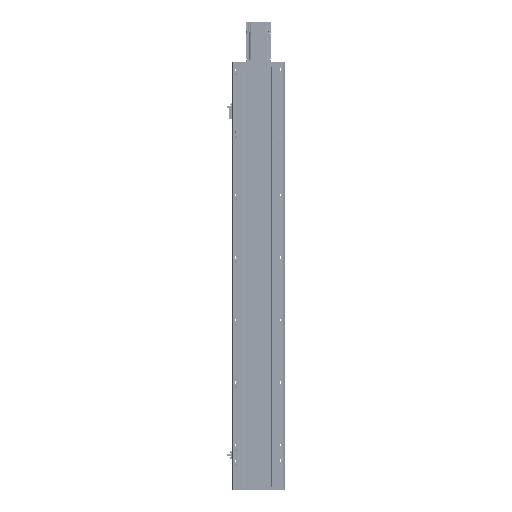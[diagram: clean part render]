
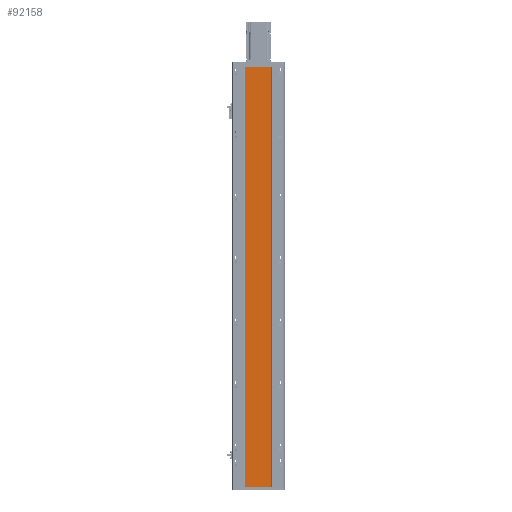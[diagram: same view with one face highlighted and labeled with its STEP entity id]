
A CAD part, front view. The second image highlights one B-rep face of the part: STEP entity #92158.
In plain terms, the highlighted planar face has unit normal (0, -1, 0).
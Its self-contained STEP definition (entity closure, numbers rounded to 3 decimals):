
#5801 = PLANE ( 'NONE',  #44922 ) ;
#7487 = DIRECTION ( 'NONE',  ( 1., 0., 0. ) ) ;
#9709 = CARTESIAN_POINT ( 'NONE',  ( -42., 0., -1345. ) ) ;
#10309 = LINE ( 'NONE', #24546, #95570 ) ;
#10428 = EDGE_CURVE ( 'NONE', #98197, #29475, #28049, .T. ) ;
#12548 = CARTESIAN_POINT ( 'NONE',  ( -42., 0., -1345. ) ) ;
#13523 = DIRECTION ( 'NONE',  ( 1., 0., 0. ) ) ;
#14028 = CARTESIAN_POINT ( 'NONE',  ( -42., 0., -1345. ) ) ;
#15722 = EDGE_LOOP ( 'NONE', ( #42338, #88941, #25563, #56900 ) ) ;
#19347 = FACE_OUTER_BOUND ( 'NONE', #15722, .T. ) ;
#19701 = VECTOR ( 'NONE', #13523, 1000. ) ;
#24546 = CARTESIAN_POINT ( 'NONE',  ( -42., 0., -1345. ) ) ;
#25563 = ORIENTED_EDGE ( 'NONE', *, *, #53585, .T. ) ;
#28049 = LINE ( 'NONE', #9709, #70654 ) ;
#29475 = VERTEX_POINT ( 'NONE', #106026 ) ;
#31503 = DIRECTION ( 'NONE',  ( 0., 0., -1. ) ) ;
#34792 = VECTOR ( 'NONE', #71512, 1000. ) ;
#42338 = ORIENTED_EDGE ( 'NONE', *, *, #53420, .F. ) ;
#42357 = LINE ( 'NONE', #73042, #19701 ) ;
#43954 = EDGE_CURVE ( 'NONE', #44988, #95842, #102778, .T. ) ;
#44922 = AXIS2_PLACEMENT_3D ( 'NONE', #14028, #82474, #31503 ) ;
#44988 = VERTEX_POINT ( 'NONE', #63469 ) ;
#53420 = EDGE_CURVE ( 'NONE', #29475, #95842, #42357, .T. ) ;
#53585 = EDGE_CURVE ( 'NONE', #98197, #44988, #10309, .T. ) ;
#54396 = CARTESIAN_POINT ( 'NONE',  ( 42., 0., -1345. ) ) ;
#56900 = ORIENTED_EDGE ( 'NONE', *, *, #43954, .T. ) ;
#63469 = CARTESIAN_POINT ( 'NONE',  ( 42., 0., -1345. ) ) ;
#70654 = VECTOR ( 'NONE', #102818, 1000. ) ;
#71512 = DIRECTION ( 'NONE',  ( 0., 0., 1. ) ) ;
#73042 = CARTESIAN_POINT ( 'NONE',  ( -42., 0., 0. ) ) ;
#75922 = CARTESIAN_POINT ( 'NONE',  ( 42., 0., 0. ) ) ;
#82474 = DIRECTION ( 'NONE',  ( 0., -1., 0. ) ) ;
#88941 = ORIENTED_EDGE ( 'NONE', *, *, #10428, .F. ) ;
#92158 = ADVANCED_FACE ( 'NONE', ( #19347 ), #5801, .T. ) ;
#95570 = VECTOR ( 'NONE', #7487, 1000. ) ;
#95842 = VERTEX_POINT ( 'NONE', #75922 ) ;
#98197 = VERTEX_POINT ( 'NONE', #12548 ) ;
#102778 = LINE ( 'NONE', #54396, #34792 ) ;
#102818 = DIRECTION ( 'NONE',  ( 0., 0., 1. ) ) ;
#106026 = CARTESIAN_POINT ( 'NONE',  ( -42., 0., 0. ) ) ;
